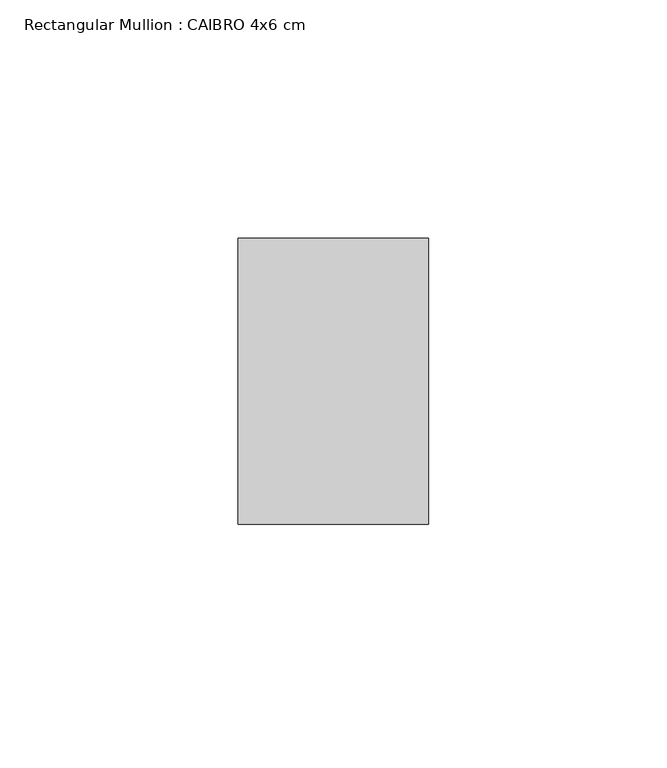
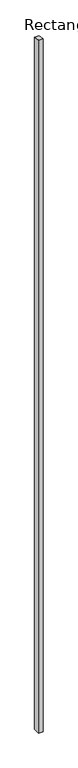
"""IFC4 building model written with IfcOpenShell, lengths in millimetres: member geometry, Rectangular Mullion : CAIBRO 4x6 cm."""

from ifc_helpers import new_model, si_unit, frame, origin, place, context, project, spatial, polyline, outline, extrude, source, transform, mapped, element, save


def rectangular_mullion_caibro_4x6_cm_1ae113c8(model_context):
    return source(origin(), model_context, "Body", "SweptSolid", [
        extrude(outline(polyline([(0.0, 0.0), (60.0, -9.0), (60.0, -6608.109795), (0.0, -6608.109795), (0.0, 0.0)])), frame((-20.0, 0.0, 0.0), z_axis=(1.0, 0.0, 0.0), x_axis=(0.0, 1.0, 0.0)), (0.0, 0.0, 1.0), 40.0),
    ])


if __name__ == "__main__":
    model = new_model("IFC4")
    model_context = context("Model", 3, world=origin())
    ifc_project = project(units=[si_unit("LENGTHUNIT", "METRE", prefix="MILLI")], contexts=[model_context])
    site = spatial("IfcSite", under=ifc_project)
    building = spatial("IfcBuilding", under=site)
    placement = place(None, origin())
    rectangular_mullion_caibro_4x6_cm_shape = rectangular_mullion_caibro_4x6_cm_1ae113c8(model_context)
    element("IfcMember", 1, ObjectType="Rectangular Mullion : CAIBRO 4x6 cm", at=placement, inside=building, context=model_context, shape_type="MappedRepresentation", body=[
        mapped(rectangular_mullion_caibro_4x6_cm_shape, transform((0.0, 0.0, 0.0), x_axis=(1.0, 0.0, 0.0), y_axis=(0.0, 1.0, 0.0), z_axis=(0.0, 0.0, 1.0))),
    ])
    save(model, "model.ifc")
